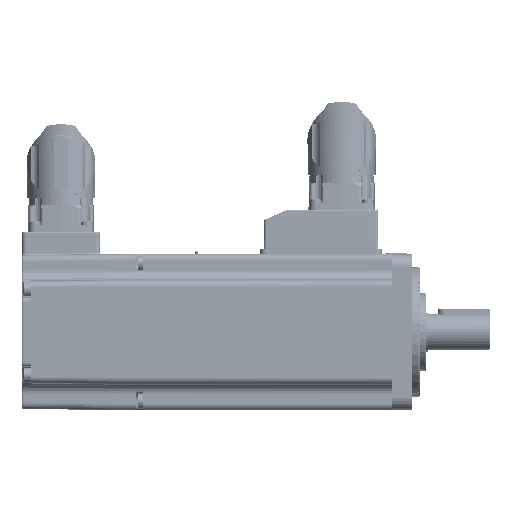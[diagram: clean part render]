
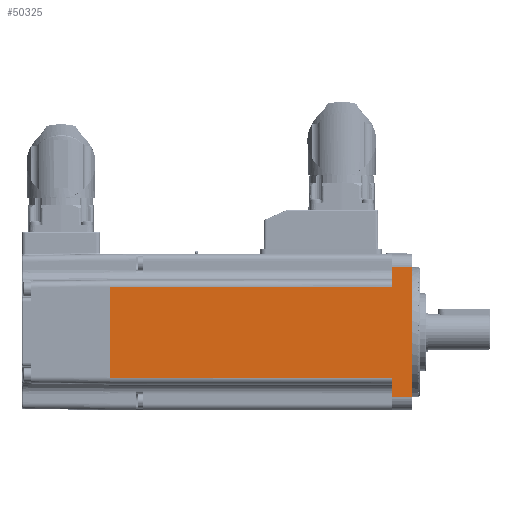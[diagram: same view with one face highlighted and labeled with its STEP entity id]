
A CAD part, left-side view. The second image highlights one B-rep face of the part: STEP entity #50325.
In plain terms, the highlighted planar face has unit normal (-1, 0, 0).
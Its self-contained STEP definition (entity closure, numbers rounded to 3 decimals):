
#1826=LINE('',#75711,#5373);
#1853=LINE('',#75799,#5400);
#1854=LINE('',#75803,#5401);
#1855=LINE('',#75806,#5402);
#1856=LINE('',#75808,#5403);
#1857=LINE('',#75810,#5404);
#1858=LINE('',#75812,#5405);
#1859=LINE('',#75813,#5406);
#5373=VECTOR('',#60080,1000.);
#5400=VECTOR('',#60147,1000.);
#5401=VECTOR('',#60152,1000.);
#5402=VECTOR('',#60153,1000.);
#5403=VECTOR('',#60154,1000.);
#5404=VECTOR('',#60155,1000.);
#5405=VECTOR('',#60156,1000.);
#5406=VECTOR('',#60157,1000.);
#9248=PLANE('',#53919);
#12217=ORIENTED_EDGE('',*,*,#26627,.T.);
#12218=ORIENTED_EDGE('',*,*,#26628,.F.);
#12219=ORIENTED_EDGE('',*,*,#26629,.T.);
#12220=ORIENTED_EDGE('',*,*,#26630,.F.);
#12221=ORIENTED_EDGE('',*,*,#26631,.T.);
#12222=ORIENTED_EDGE('',*,*,#26581,.T.);
#12223=ORIENTED_EDGE('',*,*,#26625,.T.);
#12224=ORIENTED_EDGE('',*,*,#26632,.F.);
#26581=EDGE_CURVE('',#40883,#40882,#1826,.T.);
#26625=EDGE_CURVE('',#40882,#40924,#1853,.F.);
#26627=EDGE_CURVE('',#40925,#40926,#1854,.T.);
#26628=EDGE_CURVE('',#40927,#40926,#1855,.T.);
#26629=EDGE_CURVE('',#40927,#40928,#1856,.T.);
#26630=EDGE_CURVE('',#40929,#40928,#1857,.T.);
#26631=EDGE_CURVE('',#40929,#40883,#1858,.T.);
#26632=EDGE_CURVE('',#40925,#40924,#1859,.T.);
#36389=EDGE_LOOP('',(#12217,#12218,#12219,#12220,#12221,#12222,#12223,#12224));
#40882=VERTEX_POINT('',#75710);
#40883=VERTEX_POINT('',#75712);
#40924=VERTEX_POINT('',#75800);
#40925=VERTEX_POINT('',#75804);
#40926=VERTEX_POINT('',#75805);
#40927=VERTEX_POINT('',#75807);
#40928=VERTEX_POINT('',#75809);
#40929=VERTEX_POINT('',#75811);
#46009=FACE_BOUND('',#36389,.T.);
#50325=ADVANCED_FACE('',(#46009),#9248,.T.);
#53919=AXIS2_PLACEMENT_3D('',#75802,#60150,#60151);
#60080=DIRECTION('',(0.,0.,1.));
#60147=DIRECTION('',(0.,-1.,0.));
#60150=DIRECTION('',(-1.,0.,0.));
#60151=DIRECTION('',(0.,0.,1.));
#60152=DIRECTION('',(0.,1.,0.));
#60153=DIRECTION('',(0.,0.,1.));
#60154=DIRECTION('',(0.,-1.,0.));
#60155=DIRECTION('',(0.,0.,1.));
#60156=DIRECTION('',(0.,-1.,0.));
#60157=DIRECTION('',(0.,0.,1.));
#75710=CARTESIAN_POINT('',(-30.,0.7,25.));
#75711=CARTESIAN_POINT('',(-30.,0.7,30.));
#75712=CARTESIAN_POINT('',(-30.,0.7,-25.));
#75799=CARTESIAN_POINT('',(-30.,170.145,25.));
#75800=CARTESIAN_POINT('',(-30.,8.3,25.));
#75802=CARTESIAN_POINT('',(-30.,170.145,30.));
#75803=CARTESIAN_POINT('',(-30.,170.145,17.5));
#75804=CARTESIAN_POINT('',(-30.,8.3,17.5));
#75805=CARTESIAN_POINT('',(-30.,116.7,17.5));
#75806=CARTESIAN_POINT('',(-30.,116.7,-30.));
#75807=CARTESIAN_POINT('',(-30.,116.7,-17.5));
#75808=CARTESIAN_POINT('',(-30.,170.145,-17.5));
#75809=CARTESIAN_POINT('',(-30.,8.3,-17.5));
#75810=CARTESIAN_POINT('',(-30.,8.3,30.));
#75811=CARTESIAN_POINT('',(-30.,8.3,-25.));
#75812=CARTESIAN_POINT('',(-30.,170.145,-25.));
#75813=CARTESIAN_POINT('',(-30.,8.3,30.));
